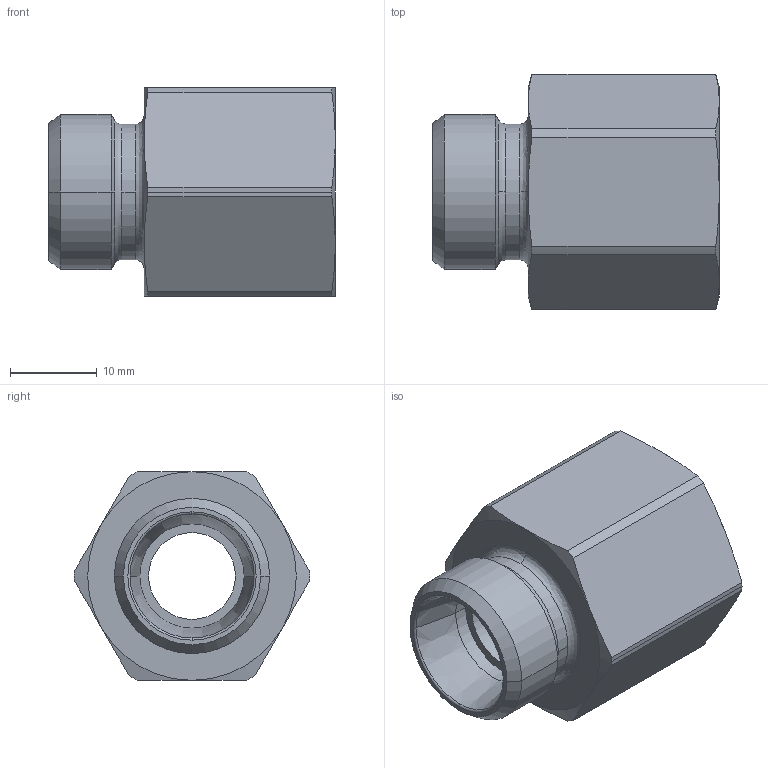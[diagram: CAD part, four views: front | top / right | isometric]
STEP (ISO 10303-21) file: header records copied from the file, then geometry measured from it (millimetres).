
FILE_DESCRIPTION((''),'2;1');
FILE_NAME('8.stp','2007-10-30T15:13:52',(''),(''),'AutoCAD STEP 2000i','AutoCAD 2000i',', , ');
FILE_SCHEMA(('CONFIG_CONTROL_DESIGN'));
Length unit declared in the file: millimetre
Products named in the file (2): 100707.0; CHIAVE SMUSSATA#0
Assembly tree (1 placements, depth 2):
  100707.0
    CHIAVE SMUSSATA#0
Bounding box: 33 x 27.1 x 24 mm (x, y, z)
Volume: 8678.1 mm3; surface area: 4513 mm2
Topology: 1 solids, 1 shells, 56 faces, 134 edges, 82 vertices
Faces by surface type: cone 22, cylinder 18, plane 10, bspline 4, torus 2
Entity records: 1887 total; most frequent: CARTESIAN_POINT 498, DIRECTION 294, ORIENTED_EDGE 268, EDGE_CURVE 134, AXIS2_PLACEMENT_3D 130, VERTEX_POINT 82, CIRCLE 76, EDGE_LOOP 60
